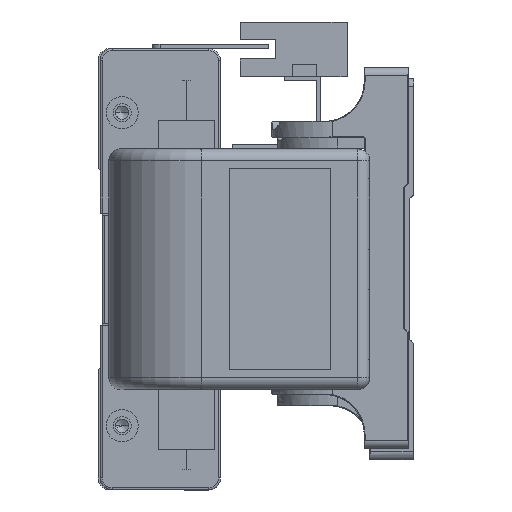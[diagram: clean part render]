
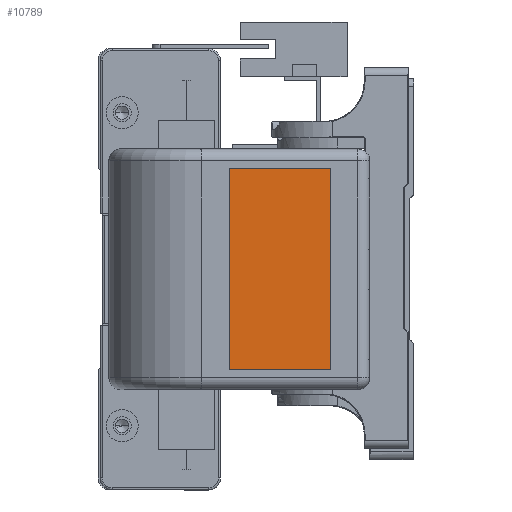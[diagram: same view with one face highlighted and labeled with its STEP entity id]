
A CAD part, left-side view. The second image highlights one B-rep face of the part: STEP entity #10789.
In plain terms, the highlighted planar face has unit normal (-1, 0, 0) as drawn and (1, 0, 0) by its records, which use the part's own axes.
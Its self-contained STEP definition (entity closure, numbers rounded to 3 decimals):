
#231 = VERTEX_POINT ( 'NONE', #21272 ) ;
#989 = EDGE_CURVE ( 'NONE', #27155, #231, #2239, .T. ) ;
#1049 = EDGE_CURVE ( 'NONE', #231, #17601, #25123, .T. ) ;
#2239 = LINE ( 'NONE', #21461, #14749 ) ;
#2245 = DIRECTION ( 'NONE',  ( 0., 0., 1. ) ) ;
#6698 = CARTESIAN_POINT ( 'NONE',  ( 23.3, 9.83, 55. ) ) ;
#7588 = CARTESIAN_POINT ( 'NONE',  ( 23.3, 0., 0. ) ) ;
#10789 = ADVANCED_FACE ( 'N', ( #18761 ), #17012, .T. ) ;
#10893 = VERTEX_POINT ( 'NONE', #27006 ) ;
#11856 = VECTOR ( 'NONE', #19441, 1000. ) ;
#12304 = DIRECTION ( 'NONE',  ( 1., 0., 0. ) ) ;
#13242 = DIRECTION ( 'NONE',  ( 0., 1., 0. ) ) ;
#14177 = CARTESIAN_POINT ( 'NONE',  ( 23.3, 35., 55. ) ) ;
#14632 = CARTESIAN_POINT ( 'NONE',  ( 23.3, 35., 55. ) ) ;
#14749 = VECTOR ( 'NONE', #13242, 1000. ) ;
#15671 = VECTOR ( 'NONE', #23226, 1000. ) ;
#17012 = PLANE ( 'NONE',  #26517 ) ;
#17237 = ORIENTED_EDGE ( 'NONE', *, *, #17482, .T. ) ;
#17482 = EDGE_CURVE ( 'NONE', #10893, #27155, #27515, .T. ) ;
#17601 = VERTEX_POINT ( 'NONE', #14177 ) ;
#18104 = VECTOR ( 'NONE', #2245, 1000. ) ;
#18310 = ORIENTED_EDGE ( 'NONE', *, *, #27033, .T. ) ;
#18500 = ORIENTED_EDGE ( 'NONE', *, *, #1049, .T. ) ;
#18761 = FACE_OUTER_BOUND ( 'NONE', #30123, .T. ) ;
#19441 = DIRECTION ( 'NONE',  ( 0., -1., 0. ) ) ;
#20064 = CARTESIAN_POINT ( 'NONE',  ( 23.3, 9.83, 4.898 ) ) ;
#21114 = ORIENTED_EDGE ( 'NONE', *, *, #989, .T. ) ;
#21272 = CARTESIAN_POINT ( 'NONE',  ( 23.3, 35., 4.898 ) ) ;
#21461 = CARTESIAN_POINT ( 'NONE',  ( 23.3, 35., 4.898 ) ) ;
#23226 = DIRECTION ( 'NONE',  ( 0., 0., -1. ) ) ;
#23588 = CARTESIAN_POINT ( 'NONE',  ( 23.3, 35., 55. ) ) ;
#24471 = LINE ( 'NONE', #14632, #11856 ) ;
#25123 = LINE ( 'NONE', #23588, #18104 ) ;
#26517 = AXIS2_PLACEMENT_3D ( 'NONE', #7588, #12304, #28861 ) ;
#27006 = CARTESIAN_POINT ( 'NONE',  ( 23.3, 9.83, 55. ) ) ;
#27033 = EDGE_CURVE ( 'NONE', #17601, #10893, #24471, .T. ) ;
#27155 = VERTEX_POINT ( 'NONE', #20064 ) ;
#27515 = LINE ( 'NONE', #6698, #15671 ) ;
#28861 = DIRECTION ( 'NONE',  ( 0., 0., -1. ) ) ;
#30123 = EDGE_LOOP ( 'NONE', ( #18310, #17237, #21114, #18500 ) ) ;
